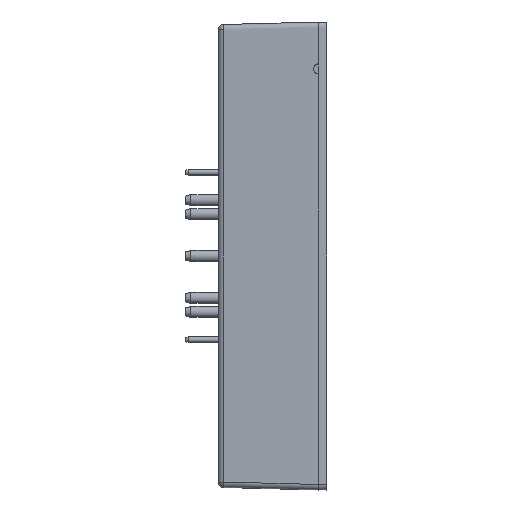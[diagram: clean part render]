
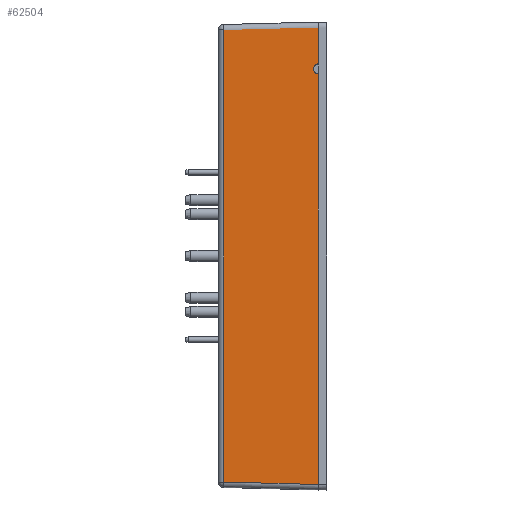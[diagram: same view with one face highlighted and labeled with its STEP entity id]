
A CAD part, left-side view. The second image highlights one B-rep face of the part: STEP entity #62504.
In plain terms, the highlighted planar face has unit normal (-1, 0.026, 0).
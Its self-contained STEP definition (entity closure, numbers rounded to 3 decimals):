
#115 = VECTOR ( 'NONE', #45286, 1000. ) ;
#402 = DIRECTION ( 'NONE',  ( -0.026, -0.999, -0.026 ) ) ;
#828 = VERTEX_POINT ( 'NONE', #21326 ) ;
#4781 = VECTOR ( 'NONE', #42428, 1000. ) ;
#4830 = VECTOR ( 'NONE', #7393, 1000. ) ;
#6578 = EDGE_CURVE ( 'NONE', #26665, #66594, #7943, .T. ) ;
#6723 = CARTESIAN_POINT ( 'NONE',  ( -57.949, 17.226, 41.049 ) ) ;
#7393 = DIRECTION ( 'NONE',  ( 0., 0., -1. ) ) ;
#7943 = LINE ( 'NONE', #12163, #115 ) ;
#8135 = CARTESIAN_POINT ( 'NONE',  ( -57.949, 17.226, -42.023 ) ) ;
#8782 = EDGE_CURVE ( 'NONE', #26665, #48498, #58795, .T. ) ;
#10529 = ORIENTED_EDGE ( 'NONE', *, *, #8782, .T. ) ;
#12163 = CARTESIAN_POINT ( 'NONE',  ( -58.4, 0., 42.5 ) ) ;
#15224 = DIRECTION ( 'NONE',  ( 0.026, 1., 0. ) ) ;
#15647 = EDGE_CURVE ( 'NONE', #66594, #42360, #64051, .T. ) ;
#16100 = CARTESIAN_POINT ( 'NONE',  ( -58.401, -0.026, 41.501 ) ) ;
#17777 = DIRECTION ( 'NONE',  ( 0., 0., -1. ) ) ;
#20615 = DIRECTION ( 'NONE',  ( -1., 0.026, 0. ) ) ;
#21326 = CARTESIAN_POINT ( 'NONE',  ( -58.4, 0., -41.5 ) ) ;
#21421 = LINE ( 'NONE', #48824, #23222 ) ;
#21684 = CARTESIAN_POINT ( 'NONE',  ( -58.4, 0., 42.5 ) ) ;
#23222 = VECTOR ( 'NONE', #402, 1000. ) ;
#23630 = ORIENTED_EDGE ( 'NONE', *, *, #57358, .F. ) ;
#25213 = FACE_OUTER_BOUND ( 'NONE', #36402, .T. ) ;
#26047 =( BOUNDED_CURVE ( )  B_SPLINE_CURVE ( 3, ( #32724, #59777, #54098, #43431 ),
 .UNSPECIFIED., .F., .T. ) 
 B_SPLINE_CURVE_WITH_KNOTS ( ( 4, 4 ),
 ( 1.571, 4.712 ),
 .UNSPECIFIED. ) 
 CURVE ( )  GEOMETRIC_REPRESENTATION_ITEM ( )  RATIONAL_B_SPLINE_CURVE ( ( 1., 0.333, 0.333, 1. ) ) 
 REPRESENTATION_ITEM ( '' )  );
#26665 = VERTEX_POINT ( 'NONE', #40483 ) ;
#27774 = VECTOR ( 'NONE', #43378, 1000. ) ;
#32724 = CARTESIAN_POINT ( 'NONE',  ( -58.4, 0., 33.1 ) ) ;
#32964 = ORIENTED_EDGE ( 'NONE', *, *, #49017, .T. ) ;
#36402 = EDGE_LOOP ( 'NONE', ( #23630, #58154, #42029, #67345, #10529, #46964, #32964 ) ) ;
#36791 = VERTEX_POINT ( 'NONE', #61208 ) ;
#36802 = VECTOR ( 'NONE', #17777, 1000. ) ;
#40483 = CARTESIAN_POINT ( 'NONE',  ( -58.4, 0., 41.5 ) ) ;
#42029 = ORIENTED_EDGE ( 'NONE', *, *, #15647, .F. ) ;
#42360 = VERTEX_POINT ( 'NONE', #54463 ) ;
#42428 = DIRECTION ( 'NONE',  ( 0.026, 0.999, -0.026 ) ) ;
#43378 = DIRECTION ( 'NONE',  ( 0., 0., -1. ) ) ;
#43431 = CARTESIAN_POINT ( 'NONE',  ( -58.4, 0., 34.9 ) ) ;
#45286 = DIRECTION ( 'NONE',  ( 0., 0., -1. ) ) ;
#46964 = ORIENTED_EDGE ( 'NONE', *, *, #54920, .T. ) ;
#47630 = PLANE ( 'NONE',  #56580 ) ;
#47993 = CARTESIAN_POINT ( 'NONE',  ( -58.4, 0., 41.5 ) ) ;
#48498 = VERTEX_POINT ( 'NONE', #6723 ) ;
#48824 = CARTESIAN_POINT ( 'NONE',  ( -58.342, 2.197, -41.443 ) ) ;
#49017 = EDGE_CURVE ( 'NONE', #36791, #828, #21421, .T. ) ;
#51414 = VERTEX_POINT ( 'NONE', #59630 ) ;
#52863 = LINE ( 'NONE', #56179, #36802 ) ;
#54098 = CARTESIAN_POINT ( 'NONE',  ( -58.353, 1.8, 34.9 ) ) ;
#54463 = CARTESIAN_POINT ( 'NONE',  ( -58.4, 0., 34.9 ) ) ;
#54920 = EDGE_CURVE ( 'NONE', #48498, #36791, #61500, .T. ) ;
#56179 = CARTESIAN_POINT ( 'NONE',  ( -58.4, 0., 42.5 ) ) ;
#56580 = AXIS2_PLACEMENT_3D ( 'NONE', #69357, #20615, #15224 ) ;
#57358 = EDGE_CURVE ( 'NONE', #51414, #828, #52863, .T. ) ;
#58154 = ORIENTED_EDGE ( 'NONE', *, *, #61387, .T. ) ;
#58795 = LINE ( 'NONE', #16100, #4781 ) ;
#59630 = CARTESIAN_POINT ( 'NONE',  ( -58.4, 0., 33.1 ) ) ;
#59777 = CARTESIAN_POINT ( 'NONE',  ( -58.353, 1.8, 33.1 ) ) ;
#61208 = CARTESIAN_POINT ( 'NONE',  ( -57.949, 17.226, -41.049 ) ) ;
#61387 = EDGE_CURVE ( 'NONE', #51414, #42360, #26047, .T. ) ;
#61500 = LINE ( 'NONE', #8135, #4830 ) ;
#62504 = ADVANCED_FACE ( 'NONE', ( #25213 ), #47630, .T. ) ;
#64051 = LINE ( 'NONE', #21684, #27774 ) ;
#66594 = VERTEX_POINT ( 'NONE', #47993 ) ;
#67345 = ORIENTED_EDGE ( 'NONE', *, *, #6578, .F. ) ;
#69357 = CARTESIAN_POINT ( 'NONE',  ( -58.4, 0., 42.5 ) ) ;
